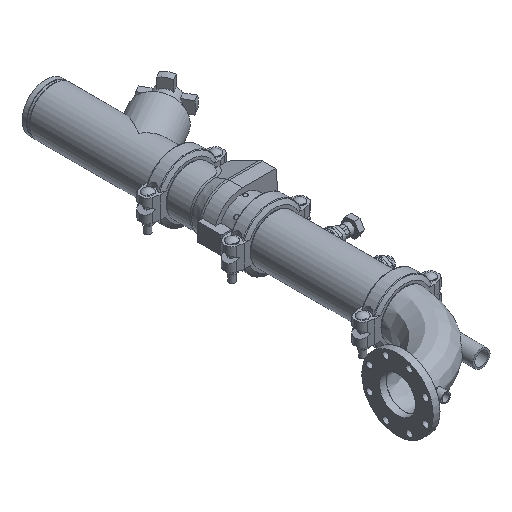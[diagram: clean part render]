
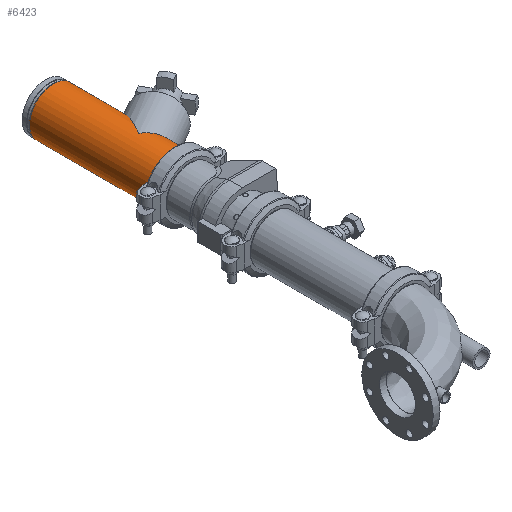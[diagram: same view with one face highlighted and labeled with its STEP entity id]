
A CAD part, isometric view. The second image highlights one B-rep face of the part: STEP entity #6423.
In plain terms, the highlighted cylindrical face has radius 84.138 mm (diameter 168.275 mm), a full revolution.
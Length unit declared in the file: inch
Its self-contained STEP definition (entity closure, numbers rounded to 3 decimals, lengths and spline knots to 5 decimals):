
#129=ELLIPSE('',#7003,6.625,3.3125);
#130=ELLIPSE('',#7004,3.82495,3.3125);
#131=ELLIPSE('',#7007,3.82495,3.3125);
#132=ELLIPSE('',#7008,6.625,3.3125);
#219=LINE('',#9855,#688);
#220=LINE('',#9861,#689);
#688=VECTOR('',#7888,3.3125);
#689=VECTOR('',#7893,3.3125);
#1128=CYLINDRICAL_SURFACE('',#7000,3.3125);
#1347=FACE_OUTER_BOUND('',#1708,.T.);
#1708=EDGE_LOOP('',(#4151,#4152,#4153,#4154,#4155,#4156,#4157,#4158,#4159,
#4160,#4161,#4162));
#2150=CIRCLE('',#7001,3.3125);
#2151=CIRCLE('',#7002,3.3125);
#2152=CIRCLE('',#7005,3.3125);
#2153=CIRCLE('',#7006,3.3125);
#2531=VERTEX_POINT('',#9850);
#2532=VERTEX_POINT('',#9851);
#2533=VERTEX_POINT('',#9854);
#2534=VERTEX_POINT('',#9856);
#2535=VERTEX_POINT('',#9858);
#2536=VERTEX_POINT('',#9860);
#2537=VERTEX_POINT('',#9862);
#2538=VERTEX_POINT('',#9865);
#3174=EDGE_CURVE('',#2531,#2532,#2150,.T.);
#3175=EDGE_CURVE('',#2532,#2531,#2151,.T.);
#3176=EDGE_CURVE('',#2532,#2533,#219,.T.);
#3177=EDGE_CURVE('',#2533,#2534,#129,.T.);
#3178=EDGE_CURVE('',#2534,#2535,#130,.T.);
#3179=EDGE_CURVE('',#2535,#2536,#220,.T.);
#3180=EDGE_CURVE('',#2536,#2537,#2152,.T.);
#3181=EDGE_CURVE('',#2537,#2536,#2153,.T.);
#3182=EDGE_CURVE('',#2535,#2538,#131,.T.);
#3183=EDGE_CURVE('',#2538,#2533,#132,.T.);
#4151=ORIENTED_EDGE('',*,*,#3174,.F.);
#4152=ORIENTED_EDGE('',*,*,#3175,.F.);
#4153=ORIENTED_EDGE('',*,*,#3176,.T.);
#4154=ORIENTED_EDGE('',*,*,#3177,.T.);
#4155=ORIENTED_EDGE('',*,*,#3178,.T.);
#4156=ORIENTED_EDGE('',*,*,#3179,.T.);
#4157=ORIENTED_EDGE('',*,*,#3180,.T.);
#4158=ORIENTED_EDGE('',*,*,#3181,.T.);
#4159=ORIENTED_EDGE('',*,*,#3179,.F.);
#4160=ORIENTED_EDGE('',*,*,#3182,.T.);
#4161=ORIENTED_EDGE('',*,*,#3183,.T.);
#4162=ORIENTED_EDGE('',*,*,#3176,.F.);
#6423=ADVANCED_FACE('',(#1347),#1128,.T.);
#7000=AXIS2_PLACEMENT_3D('',#9849,#7882,#7883);
#7001=AXIS2_PLACEMENT_3D('',#9852,#7884,#7885);
#7002=AXIS2_PLACEMENT_3D('',#9853,#7886,#7887);
#7003=AXIS2_PLACEMENT_3D('',#9857,#7889,#7890);
#7004=AXIS2_PLACEMENT_3D('',#9859,#7891,#7892);
#7005=AXIS2_PLACEMENT_3D('',#9863,#7894,#7895);
#7006=AXIS2_PLACEMENT_3D('',#9864,#7896,#7897);
#7007=AXIS2_PLACEMENT_3D('',#9866,#7898,#7899);
#7008=AXIS2_PLACEMENT_3D('',#9867,#7900,#7901);
#7882=DIRECTION('center_axis',(1.,0.,0.));
#7883=DIRECTION('ref_axis',(0.,1.,0.));
#7884=DIRECTION('center_axis',(1.,0.,0.));
#7885=DIRECTION('ref_axis',(0.,0.,-1.));
#7886=DIRECTION('center_axis',(1.,0.,0.));
#7887=DIRECTION('ref_axis',(0.,0.,-1.));
#7888=DIRECTION('',(-1.,0.,0.));
#7889=DIRECTION('center_axis',(0.5,0.866,0.));
#7890=DIRECTION('ref_axis',(-0.866,0.5,0.));
#7891=DIRECTION('center_axis',(-0.866,0.5,0.));
#7892=DIRECTION('ref_axis',(-0.5,-0.866,0.));
#7893=DIRECTION('',(-1.,0.,0.));
#7894=DIRECTION('center_axis',(1.,0.,0.));
#7895=DIRECTION('ref_axis',(0.,0.,-1.));
#7896=DIRECTION('center_axis',(1.,0.,0.));
#7897=DIRECTION('ref_axis',(0.,0.,-1.));
#7898=DIRECTION('center_axis',(-0.866,0.5,0.));
#7899=DIRECTION('ref_axis',(-0.5,-0.866,0.));
#7900=DIRECTION('center_axis',(0.5,0.866,0.));
#7901=DIRECTION('ref_axis',(-0.866,0.5,0.));
#9849=CARTESIAN_POINT('Origin',(0.,0.,
0.));
#9850=CARTESIAN_POINT('',(8.44,3.3125,0.));
#9851=CARTESIAN_POINT('',(8.44,-3.3125,0.));
#9852=CARTESIAN_POINT('Origin',(8.44,0.,0.));
#9853=CARTESIAN_POINT('Origin',(8.44,0.,0.));
#9854=CARTESIAN_POINT('',(2.15155,-3.3125,0.));
#9855=CARTESIAN_POINT('',(0.,-3.3125,0.));
#9856=CARTESIAN_POINT('',(-3.58586,0.,-3.3125));
#9857=CARTESIAN_POINT('Origin',(-3.58586,0.,
0.));
#9858=CARTESIAN_POINT('',(-5.49834,-3.3125,0.));
#9859=CARTESIAN_POINT('Origin',(-3.58586,0.,
0.));
#9860=CARTESIAN_POINT('',(-8.44,-3.3125,0.));
#9861=CARTESIAN_POINT('',(0.,-3.3125,0.));
#9862=CARTESIAN_POINT('',(-8.44,3.3125,0.));
#9863=CARTESIAN_POINT('Origin',(-8.44,0.,0.));
#9864=CARTESIAN_POINT('Origin',(-8.44,0.,0.));
#9865=CARTESIAN_POINT('',(-3.58586,0.,3.3125));
#9866=CARTESIAN_POINT('Origin',(-3.58586,0.,
0.));
#9867=CARTESIAN_POINT('Origin',(-3.58586,0.,
0.));
